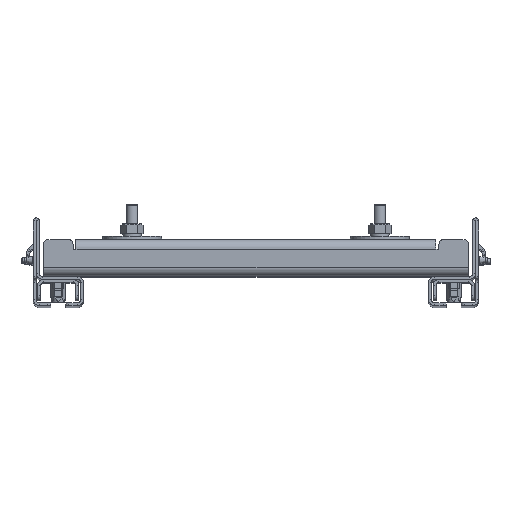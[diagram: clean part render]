
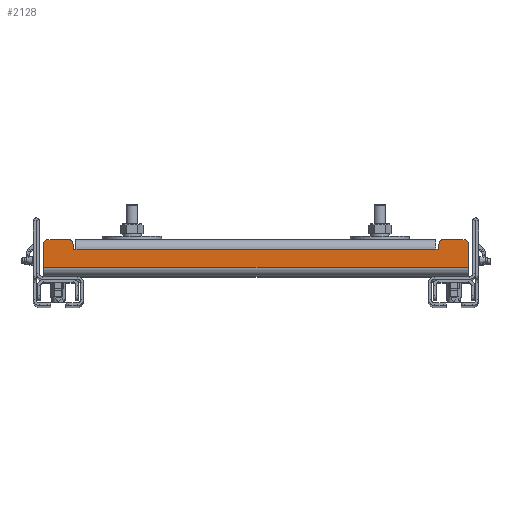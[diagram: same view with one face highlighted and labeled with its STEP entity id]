
A CAD part, top view. The second image highlights one B-rep face of the part: STEP entity #2128.
In plain terms, the highlighted planar face has unit normal (0, 0, 1) as drawn and (-1, 0, 0) by its records, which use the part's own axes.
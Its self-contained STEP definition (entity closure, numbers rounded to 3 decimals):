
#2128=ADVANCED_FACE('',(#4197),#4199,.T.);
#4197=FACE_BOUND('',#4198,.T.);
#4198=EDGE_LOOP('',(#8879,#8880,#8881,#8882,#8883,#8884,#8885,#8886,#8887,#8888,
#8889,#8890,#8891,#8892));
#4199=PLANE('',#4200);
#4200=AXIS2_PLACEMENT_3D('',#4201,#4202,#4203);
#4201=CARTESIAN_POINT('',(-14.,18.7,0.));
#4202=DIRECTION('',(-1.,0.,0.));
#4203=DIRECTION('',(0.,-1.,0.));
#8879=ORIENTED_EDGE('',*,*,#10399,.F.);
#8880=ORIENTED_EDGE('',*,*,#10400,.T.);
#8881=ORIENTED_EDGE('',*,*,#10401,.F.);
#8882=ORIENTED_EDGE('',*,*,#10402,.F.);
#8883=ORIENTED_EDGE('',*,*,#10364,.F.);
#8884=ORIENTED_EDGE('',*,*,#10403,.T.);
#8885=ORIENTED_EDGE('',*,*,#10404,.F.);
#8886=ORIENTED_EDGE('',*,*,#10405,.T.);
#8887=ORIENTED_EDGE('',*,*,#10406,.F.);
#8888=ORIENTED_EDGE('',*,*,#10407,.T.);
#8889=ORIENTED_EDGE('',*,*,#10408,.T.);
#8890=ORIENTED_EDGE('',*,*,#10409,.T.);
#8891=ORIENTED_EDGE('',*,*,#10410,.T.);
#8892=ORIENTED_EDGE('',*,*,#10411,.T.);
#10364=EDGE_CURVE('',#11738,#11740,#11741,.T.);
#10399=EDGE_CURVE('',#11802,#11803,#11804,.F.);
#10400=EDGE_CURVE('',#11802,#11805,#11806,.T.);
#10401=EDGE_CURVE('',#11807,#11805,#11808,.F.);
#10402=EDGE_CURVE('',#11740,#11807,#11809,.T.);
#10403=EDGE_CURVE('',#11738,#11810,#11811,.T.);
#10404=EDGE_CURVE('',#11812,#11810,#11813,.F.);
#10405=EDGE_CURVE('',#11812,#11814,#11815,.T.);
#10406=EDGE_CURVE('',#11816,#11814,#11817,.F.);
#10407=EDGE_CURVE('',#11816,#11818,#11819,.F.);
#10408=EDGE_CURVE('',#11818,#11820,#11821,.F.);
#10409=EDGE_CURVE('',#11820,#11822,#11823,.T.);
#10410=EDGE_CURVE('',#11822,#11824,#11825,.F.);
#10411=EDGE_CURVE('',#11824,#11803,#11826,.F.);
#11738=VERTEX_POINT('',#14690);
#11740=VERTEX_POINT('',#14695);
#11741=LINE('',#14696,#14697);
#11802=VERTEX_POINT('',#14838);
#11803=VERTEX_POINT('',#14839);
#11804=CIRCLE('',#14840,3.);
#11805=VERTEX_POINT('',#14844);
#11806=LINE('',#14845,#14846);
#11807=VERTEX_POINT('',#14848);
#11808=CIRCLE('',#14849,3.);
#11809=LINE('',#14853,#14854);
#11810=VERTEX_POINT('',#14856);
#11811=LINE('',#14857,#14858);
#11812=VERTEX_POINT('',#14860);
#11813=CIRCLE('',#14861,3.);
#11814=VERTEX_POINT('',#14865);
#11815=LINE('',#14866,#14867);
#11816=VERTEX_POINT('',#14869);
#11817=CIRCLE('',#14870,3.);
#11818=VERTEX_POINT('',#14874);
#11819=LINE('',#14875,#14876);
#11820=VERTEX_POINT('',#14878);
#11821=LINE('',#14879,#14880);
#11822=VERTEX_POINT('',#14882);
#11823=LINE('',#14883,#14884);
#11824=VERTEX_POINT('',#14886);
#11825=LINE('',#14887,#14888);
#11826=LINE('',#14890,#14891);
#14690=CARTESIAN_POINT('',(-14.,18.7,0.));
#14695=CARTESIAN_POINT('',(-14.,18.7,288.));
#14696=CARTESIAN_POINT('',(-14.,18.7,0.));
#14697=VECTOR('',#14698,1.);
#14698=DIRECTION('',(0.,0.,1.));
#14838=CARTESIAN_POINT('',(-14.,0.,271.));
#14839=CARTESIAN_POINT('',(-14.,3.,268.));
#14840=AXIS2_PLACEMENT_3D('',#14841,#14842,#14843);
#14841=CARTESIAN_POINT('',(-14.,3.,271.));
#14842=DIRECTION('',(-1.,0.,0.));
#14843=DIRECTION('',(0.,0.,-1.));
#14844=CARTESIAN_POINT('',(-14.,0.,285.));
#14845=CARTESIAN_POINT('',(-14.,0.,271.));
#14846=VECTOR('',#14847,1.);
#14847=DIRECTION('',(0.,0.,1.));
#14848=CARTESIAN_POINT('',(-14.,3.,288.));
#14849=AXIS2_PLACEMENT_3D('',#14850,#14851,#14852);
#14850=CARTESIAN_POINT('',(-14.,3.,285.));
#14851=DIRECTION('',(-1.,0.,0.));
#14852=DIRECTION('',(0.,-1.,0.));
#14853=CARTESIAN_POINT('',(-14.,18.7,288.));
#14854=VECTOR('',#14855,1.);
#14855=DIRECTION('',(0.,-1.,0.));
#14856=CARTESIAN_POINT('',(-14.,3.,0.));
#14857=CARTESIAN_POINT('',(-14.,18.7,0.));
#14858=VECTOR('',#14859,1.);
#14859=DIRECTION('',(0.,-1.,0.));
#14860=CARTESIAN_POINT('',(-14.,0.,3.));
#14861=AXIS2_PLACEMENT_3D('',#14862,#14863,#14864);
#14862=CARTESIAN_POINT('',(-14.,3.,3.));
#14863=DIRECTION('',(-1.,0.,0.));
#14864=DIRECTION('',(0.,0.,-1.));
#14865=CARTESIAN_POINT('',(-14.,0.,17.));
#14866=CARTESIAN_POINT('',(-14.,0.,3.));
#14867=VECTOR('',#14868,1.);
#14868=DIRECTION('',(0.,0.,1.));
#14869=CARTESIAN_POINT('',(-14.,3.,20.));
#14870=AXIS2_PLACEMENT_3D('',#14871,#14872,#14873);
#14871=CARTESIAN_POINT('',(-14.,3.,17.));
#14872=DIRECTION('',(-1.,0.,0.));
#14873=DIRECTION('',(0.,-1.,0.));
#14874=CARTESIAN_POINT('',(-14.,6.3,20.));
#14875=CARTESIAN_POINT('',(-14.,6.3,20.));
#14876=VECTOR('',#14877,1.);
#14877=DIRECTION('',(0.,-1.,0.));
#14878=CARTESIAN_POINT('',(-14.,6.3,22.));
#14879=CARTESIAN_POINT('',(-14.,6.3,22.));
#14880=VECTOR('',#14881,1.);
#14881=DIRECTION('',(0.,0.,-1.));
#14882=CARTESIAN_POINT('',(-14.,6.3,266.));
#14883=CARTESIAN_POINT('',(-14.,6.3,22.));
#14884=VECTOR('',#14885,1.);
#14885=DIRECTION('',(0.,0.,1.));
#14886=CARTESIAN_POINT('',(-14.,6.3,268.));
#14887=CARTESIAN_POINT('',(-14.,6.3,268.));
#14888=VECTOR('',#14889,1.);
#14889=DIRECTION('',(0.,0.,-1.));
#14890=CARTESIAN_POINT('',(-14.,3.,268.));
#14891=VECTOR('',#14892,1.);
#14892=DIRECTION('',(0.,1.,0.));
